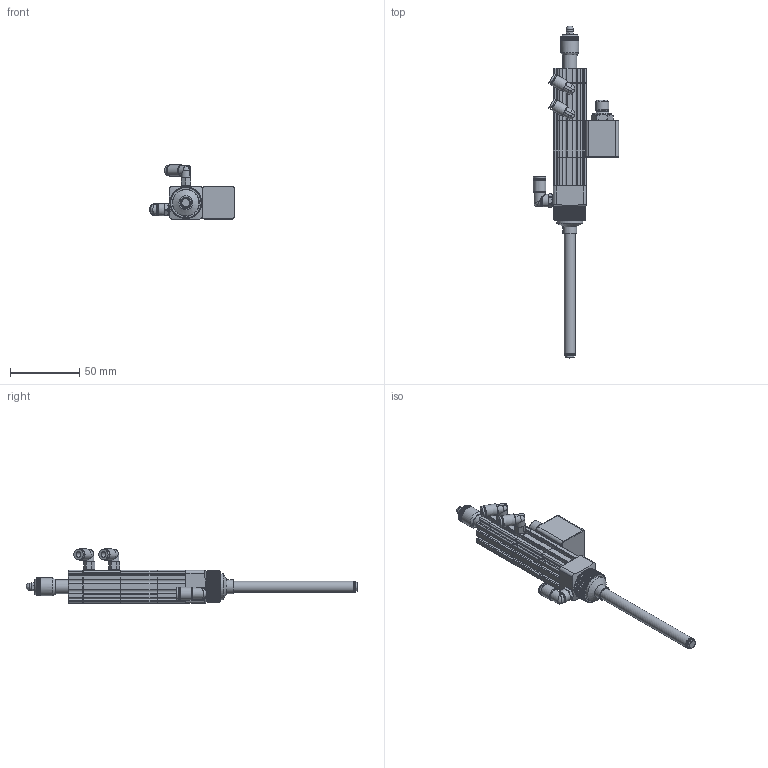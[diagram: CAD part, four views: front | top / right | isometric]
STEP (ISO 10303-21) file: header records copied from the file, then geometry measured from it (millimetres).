
FILE_DESCRIPTION (( 'STEP AP214' ), '1' );
FILE_NAME ('DAVS-100-100.STEP', '2025-02-03T07:33:22', ( '' ), ( '' ), 'SwSTEP 2.0', 'SolidWorks 2024', '' );
FILE_SCHEMA (( 'AUTOMOTIVE_DESIGN' ));
Length unit declared in the file: millimetre
Products named in the file (1): DAVS-100-100
Bounding box: 61.7 x 240.18 x 39.26 mm (x, y, z)
Volume: 71521.6 mm3; surface area: 32376.2 mm2
Topology: 4 solids, 4 shells, 1807 faces, 4337 edges, 2457 vertices
Faces by surface type: plane 1021, cone 455, cylinder 314, bspline 12, sphere 5
Full cylindrical faces by diameter (mm): 2.5 x1, 3 x1, 3.3 x3, 3.9 x1, 4 x3, 4.15 x1, 4.2 x1, 4.8 x2, 5 x4, 5.2 x1, 5.5 x2, 7 x2, 7.7 x2, 8 x4, 8.2 x2, 9 x2, 9.1 x1, 9.6 x1, 10 x2, 13 x1, 13.8 x1, 19 x1, 19.2 x1, 22 x1
Entity records: 51174 total; most frequent: CARTESIAN_POINT 12133, ORIENTED_EDGE 8230, DIRECTION 7842, EDGE_CURVE 4115, AXIS2_PLACEMENT_3D 2858, VERTEX_POINT 2419, VECTOR 2126, LINE 2126
